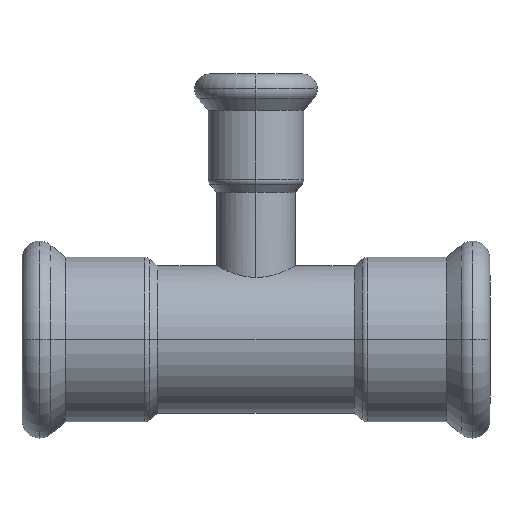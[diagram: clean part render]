
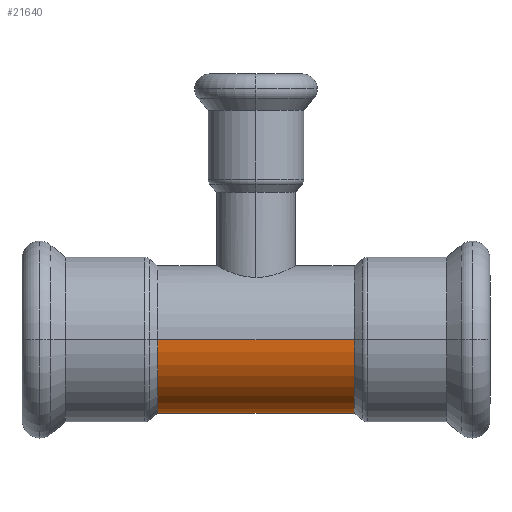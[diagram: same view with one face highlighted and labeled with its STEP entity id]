
A CAD part, left-side view. The second image highlights one B-rep face of the part: STEP entity #21640.
In plain terms, the highlighted cylindrical face has radius 14 mm (diameter 28 mm), a partial arc.
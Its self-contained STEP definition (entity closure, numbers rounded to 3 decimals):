
#4830=CARTESIAN_POINT('',(-96.193,10.909,
18.7));
#4840=DIRECTION('',(0.,0.,1.));
#4850=DIRECTION('',(1.,0.,0.));
#4860=AXIS2_PLACEMENT_3D('',#4830,#4840,#4850);
#4870=CYLINDRICAL_SURFACE('',#4860,14.);
#10200=CARTESIAN_POINT('',(-110.193,10.909,
-18.7));
#10210=VERTEX_POINT('',#10200);
#10300=CARTESIAN_POINT('',(-82.193,10.909,
-18.7));
#10310=VERTEX_POINT('',#10300);
#10340=CARTESIAN_POINT('',(-96.193,10.909,
-18.7));
#10350=DIRECTION('',(0.,0.,-1.));
#10360=DIRECTION('',(1.,0.,0.));
#10370=AXIS2_PLACEMENT_3D('',#10340,#10350,#10360);
#10380=CIRCLE('',#10370,14.);
#15450=CARTESIAN_POINT('',(-82.193,10.909,
18.7));
#15460=DIRECTION('',(0.,0.,1.));
#15470=VECTOR('',#15460,1.);
#15480=LINE('',#15450,#15470);
#15490=CARTESIAN_POINT('',(-82.193,10.909,
18.7));
#15500=VERTEX_POINT('',#15490);
#15510=EDGE_CURVE('',#10310,#15500,#15480,.T.);
#15530=CARTESIAN_POINT('',(-96.193,10.909,
18.7));
#15540=DIRECTION('',(0.,0.,1.));
#15550=DIRECTION('',(1.,0.,0.));
#15560=AXIS2_PLACEMENT_3D('',#15530,#15540,#15550);
#15570=CIRCLE('',#15560,14.);
#15580=CARTESIAN_POINT('',(-110.193,10.909,
18.7));
#15590=VERTEX_POINT('',#15580);
#15620=CARTESIAN_POINT('',(-110.193,10.909,
18.7));
#15630=DIRECTION('',(0.,0.,1.));
#15640=VECTOR('',#15630,1.);
#15650=LINE('',#15620,#15640);
#15660=EDGE_CURVE('',#10210,#15590,#15650,.T.);
#18570=EDGE_CURVE('',#15590,#15500,#15570,.T.);
#21570=ORIENTED_EDGE('',*,*,#15510,.T.);
#21580=EDGE_CURVE('',#10310,#10210,#10380,.T.);
#21590=ORIENTED_EDGE('',*,*,#21580,.F.);
#21600=ORIENTED_EDGE('',*,*,#15660,.F.);
#21610=ORIENTED_EDGE('',*,*,#18570,.F.);
#21620=EDGE_LOOP('',(#21610,#21600,#21590,#21570));
#21630=FACE_OUTER_BOUND('',#21620,.T.);
#21640=ADVANCED_FACE('',(#21630),#4870,.T.);
